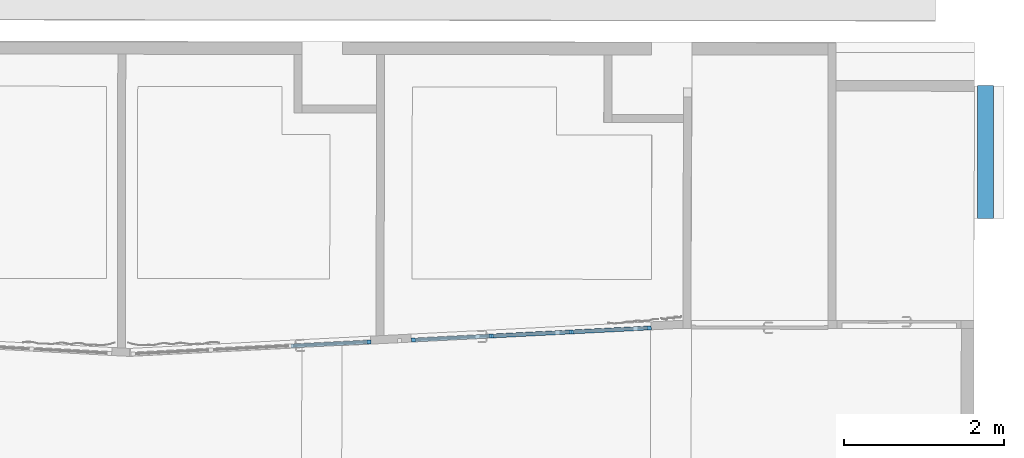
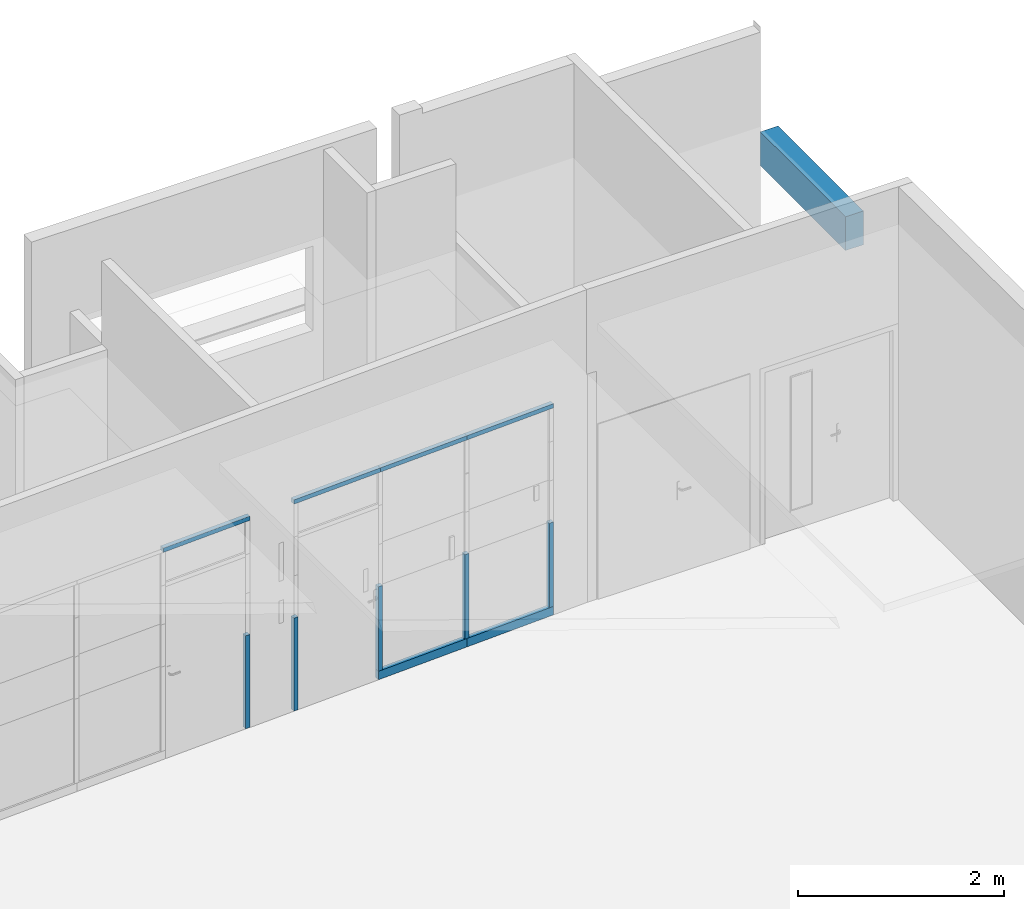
# One storey, part 2 of 43: 11 members, 1 beam, 2 elements without a shape of their own.
"""IFC2X3 building model written with IfcOpenShell, lengths in metres."""

from ifc_helpers import new_model, entity, si_unit, converted_unit, derived_unit, direction, frame, frame_2d, origin, origin_2d_with_axis, place, context, subcontext, project, spatial, rectangle, extrude, source, transform, mapped, material, type_object, type_shapes, element, aggregate, save


model = new_model("IFC2X3")

# Units and contexts
model_context = context("Model", 3, precision=1e-05, world=origin(), true_north=direction((6.123233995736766e-17, 1.0)))
body_context = subcontext(model_context, "Body", "Model", "MODEL_VIEW")
ifc_project = project(units=[si_unit("LENGTHUNIT", "METRE"), si_unit("AREAUNIT", "SQUARE_METRE"), converted_unit("PLANEANGLEUNIT", "DEGREE", entity("IfcPlaneAngleMeasure", 0.017453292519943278), si_unit("PLANEANGLEUNIT", "RADIAN"), dimensions=[0, 0, 0, 0, 0, 0, 0]), derived_unit("THERMALTRANSMITTANCEUNIT", [(si_unit("MASSUNIT", "GRAM", prefix="KILO"), 1), (si_unit("THERMODYNAMICTEMPERATUREUNIT", "KELVIN"), -1), (si_unit("TIMEUNIT", "SECOND"), -3)])], contexts=[model_context])

# Site, building, storey
site_placement = place(None, frame((1253.6752467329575, 2072.143113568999, 91.49999999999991), z_axis=(0.0, 0.0, 1.0), x_axis=(0.7237211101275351, 0.6900925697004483, 0.0)))
site = spatial("IfcSite", under=ifc_project, at=site_placement, Name="Surface", CompositionType="ELEMENT")
building_placement = place(site_placement, origin())
building = spatial("IfcBuilding", under=site, at=building_placement, CompositionType="ELEMENT")
storey_placement = place(building_placement, frame((0.0, 0.0, -4.629999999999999)))
storey = spatial("IfcBuildingStorey", under=building, at=storey_placement, Name="rez de rue -1.10m", CompositionType="ELEMENT", Elevation=-4.629999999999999)

# Beam
ifc_material_1 = material(Name="Béton - Béton coulé sur place")
beam_type = type_object("IfcBeamType", Name="ART-Béton - Poutre rectangulaire:Po 20x40 ht", PredefinedType="BEAM")
beam_placement = place(storey_placement, frame((189.51419344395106, 4.0133765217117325, 0.34277777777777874), z_axis=(0.0, 0.0, 1.0), x_axis=(-0.6911544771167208, -0.7227070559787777, 0.0)))
element("IfcBeam", 1, at=beam_placement, inside=storey, type_object=beam_type, material=ifc_material_1, Name="ART-Béton - Poutre rectangulaire:Po 20x40 ht", ObjectType="ART-Béton - Poutre rectangulaire:Po 20x40 ht", context=body_context, shape_type="SweptSolid", body=[
    extrude(rectangle(XDim=0.4, YDim=0.20000000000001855, at=frame_2d((0.0, -1.8735013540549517e-16), x_axis=(1.0, 0.0))), frame((0.0, 2.1000000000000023, 1.8999999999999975), z_axis=(1.0, 0.0, 0.0), x_axis=(0.0, 0.0, -1.0)), (0.0, 0.0, 1.0), 1.6591115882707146),
])

# Curtain wall, members
curtain_wall_type = type_object("IfcCurtainWallType", Name="Mur-rideau:Menuiserie Int", PredefinedType="NOTDEFINED")
curtain_wall_1_placement = place(storey_placement, frame((0.0, 0.0, 4.629999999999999)))
curtain_wall_1 = element("IfcCurtainWall", 2, at=curtain_wall_1_placement, inside=storey, type_object=curtain_wall_type, Name="Mur-rideau:Menuiserie Int", ObjectType="Mur-rideau:Menuiserie Int")
ifc_material_2 = material(Name="OMD_Bois Men Int")
member_type_1 = type_object("IfcMemberType", Name="Meneau rectangulaire:50x50 Int", PredefinedType="MULLION", material=ifc_material_2)
shared_shape_1 = source(origin(), body_context, "Body", "SweptSolid", [
    extrude(rectangle(XDim=0.05, YDim=0.049999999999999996, at=origin_2d_with_axis()), frame((-0.025, 0.0, -1.0), z_axis=(0.0, 0.0, 1.0), x_axis=(-1.0, 0.0, 0.0)), (0.0, 0.0, 1.0), 0.9999999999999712),
])
type_shapes(member_type_1, [shared_shape_1])
member_1_placement = place(curtain_wall_1_placement, frame((183.26996230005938, 5.543869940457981, -2.1299999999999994), z_axis=(0.7578888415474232, -0.6523837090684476, 0.0), x_axis=(0.0, 0.0, 1.0)))
member_1 = element("IfcMember", 3, at=member_1_placement, type_object=member_type_1, material=ifc_material_2, Name="Meneau rectangulaire:50x50 Int", ObjectType="Meneau rectangulaire:50x50 Int", context=body_context, shape_type="MappedRepresentation", body=[
    mapped(shared_shape_1, transform((0.0, 0.0, 0.0), scale=1.0)),
])
member_type_2 = type_object("IfcMemberType", Name="Meneau rectangulaire:50x50 Int", PredefinedType="MULLION", material=ifc_material_2)
shared_shape_2 = source(origin(), body_context, "Body", "SweptSolid", [
    extrude(rectangle(XDim=0.05, YDim=0.05, at=origin_2d_with_axis()), frame((-0.025, 0.0, -1.0999999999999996), z_axis=(0.0, 0.0, 1.0), x_axis=(-1.0, 0.0, 0.0)), (0.0, 0.0, 1.0), 1.0999999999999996),
])
type_shapes(member_type_2, [shared_shape_2])
member_2_placement = place(curtain_wall_1_placement, frame((183.2699623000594, 5.543869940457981, -4.629999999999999), z_axis=(0.0, 0.0, -1.0), x_axis=(0.7578888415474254, -0.6523837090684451, 0.0)))
member_2 = element("IfcMember", 4, at=member_2_placement, type_object=member_type_2, material=ifc_material_2, Name="Meneau rectangulaire:50x50 Int", ObjectType="Meneau rectangulaire:50x50 Int", context=body_context, shape_type="MappedRepresentation", body=[
    mapped(shared_shape_2, transform((0.0, 0.0, 0.0), scale=1.0)),
])
aggregate(curtain_wall_1, [member_1, member_2])

curtain_wall_2_placement = place(storey_placement, frame((0.0, 0.0, 4.629999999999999)))
curtain_wall_2 = element("IfcCurtainWall", 5, at=curtain_wall_2_placement, inside=storey, type_object=curtain_wall_type, Name="Mur-rideau:Menuiserie Int", ObjectType="Mur-rideau:Menuiserie Int")
member_type_3 = type_object("IfcMemberType", Name="Meneau rectangulaire:50x50 Int", PredefinedType="MULLION", material=ifc_material_2)
shared_shape_3 = source(origin(), body_context, "Body", "SweptSolid", [
    extrude(rectangle(XDim=0.05, YDim=0.05, at=frame_2d((0.0, 1.734723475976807e-18), x_axis=(1.0, 0.0))), frame((-0.025, 0.0, -1.0), z_axis=(0.0, 0.0, 1.0), x_axis=(-1.0, 0.0, 0.0)), (0.0, 0.0, 1.0), 1.000000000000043),
])
type_shapes(member_type_3, [shared_shape_3])
member_3_placement = place(curtain_wall_2_placement, frame((185.92429787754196, 3.2543116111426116, -2.1299999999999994), z_axis=(0.7578888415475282, -0.6523837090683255, 0.0), x_axis=(0.0, 0.0, 1.0)))
member_3 = element("IfcMember", 6, at=member_3_placement, type_object=member_type_3, material=ifc_material_2, Name="Meneau rectangulaire:50x50 Int", ObjectType="Meneau rectangulaire:50x50 Int", context=body_context, shape_type="MappedRepresentation", body=[
    mapped(shared_shape_3, transform((0.0, 0.0, 0.0), scale=1.0)),
])
member_type_4 = type_object("IfcMemberType", Name="Meneau rectangulaire:50x50 Int", PredefinedType="MULLION", material=ifc_material_2)
shared_shape_4 = source(origin(), body_context, "Body", "SweptSolid", [
    extrude(rectangle(XDim=0.05, YDim=0.05, at=origin_2d_with_axis()), frame((-0.025, 0.0, -1.0), z_axis=(0.0, 0.0, 1.0), x_axis=(-1.0, 0.0, 0.0)), (0.0, 0.0, 1.0), 1.0),
])
type_shapes(member_type_4, [shared_shape_4])
member_4_placement = place(curtain_wall_2_placement, frame((185.92429787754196, 3.2543116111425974, -4.529999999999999), z_axis=(0.0, 0.0, -1.0), x_axis=(0.7578888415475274, -0.6523837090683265, 0.0)))
member_4 = element("IfcMember", 7, at=member_4_placement, type_object=member_type_4, material=ifc_material_2, Name="Meneau rectangulaire:50x50 Int", ObjectType="Meneau rectangulaire:50x50 Int", context=body_context, shape_type="MappedRepresentation", body=[
    mapped(shared_shape_4, transform((0.0, 0.0, 0.0), scale=1.0)),
])
member_type_5 = type_object("IfcMemberType", Name="Meneau rectangulaire:50x50 Int", PredefinedType="MULLION", material=ifc_material_2)
shared_shape_5 = source(origin(), body_context, "Body", "SweptSolid", [
    extrude(rectangle(XDim=0.05, YDim=0.05000000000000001, at=origin_2d_with_axis()), frame((-0.025, 0.0, -1.0), z_axis=(0.0, 0.0, 1.0), x_axis=(-1.0, 0.0, 0.0)), (0.0, 0.0, 1.0), 0.9999999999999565),
])
type_shapes(member_type_5, [shared_shape_5])
member_5_placement = place(curtain_wall_2_placement, frame((185.16640903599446, 3.9066953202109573, -2.1299999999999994), z_axis=(0.7578888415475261, -0.6523837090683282, 0.0), x_axis=(0.0, 0.0, 1.0)))
member_5 = element("IfcMember", 8, at=member_5_placement, type_object=member_type_5, material=ifc_material_2, Name="Meneau rectangulaire:50x50 Int", ObjectType="Meneau rectangulaire:50x50 Int", context=body_context, shape_type="MappedRepresentation", body=[
    mapped(shared_shape_5, transform((0.0, 0.0, 0.0), scale=1.0)),
])
member_type_6 = type_object("IfcMemberType", Name="Meneau rectangulaire:ht 100x50", PredefinedType="MULLION", material=ifc_material_2)
shared_shape_6 = source(origin(), body_context, "Body", "SweptSolid", [
    extrude(rectangle(XDim=0.09999999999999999, YDim=0.05, at=origin_2d_with_axis()), frame((-0.049999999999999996, 0.0, -1.0), z_axis=(0.0, 0.0, 1.0), x_axis=(-1.0, 0.0, 0.0)), (0.0, 0.0, 1.0), 1.000000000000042),
])
type_shapes(member_type_6, [shared_shape_6])
member_6_placement = place(curtain_wall_2_placement, frame((185.16640903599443, 3.9066953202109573, -4.629999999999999), z_axis=(-0.7578888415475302, 0.6523837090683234, 0.0), x_axis=(0.0, 0.0, -1.0)))
member_6 = element("IfcMember", 9, at=member_6_placement, type_object=member_type_6, material=ifc_material_2, Name="Meneau rectangulaire:ht 100x50", ObjectType="Meneau rectangulaire:ht 100x50", context=body_context, shape_type="MappedRepresentation", body=[
    mapped(shared_shape_6, transform((0.0, 0.0, 0.0), scale=1.0)),
])
member_type_7 = type_object("IfcMemberType", Name="Meneau rectangulaire:50x50 Int", PredefinedType="MULLION", material=ifc_material_2)
shared_shape_7 = source(origin(), body_context, "Body", "SweptSolid", [
    extrude(rectangle(XDim=0.05, YDim=0.05, at=origin_2d_with_axis()), frame((-0.025, 0.0, -1.0), z_axis=(0.0, 0.0, 1.0), x_axis=(-1.0, 0.0, 0.0)), (0.0, 0.0, 1.0), 0.9999999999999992),
])
type_shapes(member_type_7, [shared_shape_7])
member_7_placement = place(curtain_wall_2_placement, frame((184.40852019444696, 4.559079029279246, -2.1299999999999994), z_axis=(0.7578888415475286, -0.6523837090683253, 0.0), x_axis=(0.0, 0.0, 1.0)))
member_7 = element("IfcMember", 10, at=member_7_placement, type_object=member_type_7, material=ifc_material_2, Name="Meneau rectangulaire:50x50 Int", ObjectType="Meneau rectangulaire:50x50 Int", context=body_context, shape_type="MappedRepresentation", body=[
    mapped(shared_shape_7, transform((0.0, 0.0, 0.0), scale=1.0)),
])
member_type_8 = type_object("IfcMemberType", Name="Meneau rectangulaire:ht 100x50", PredefinedType="MULLION", material=ifc_material_2)
shared_shape_8 = source(origin(), body_context, "Body", "SweptSolid", [
    extrude(rectangle(XDim=0.09999999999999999, YDim=0.05, at=origin_2d_with_axis()), frame((-0.049999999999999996, 0.0, -1.024999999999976), z_axis=(0.0, 0.0, 1.0), x_axis=(-1.0, 0.0, 0.0)), (0.0, 0.0, 1.0), 1.0249999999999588),
])
type_shapes(member_type_8, [shared_shape_8])
member_8_placement = place(curtain_wall_2_placement, frame((184.3895729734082, 4.57538862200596, -4.629999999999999), z_axis=(-0.7578888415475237, 0.6523837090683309, 0.0), x_axis=(0.0, 0.0, -1.0)))
member_8 = element("IfcMember", 11, at=member_8_placement, type_object=member_type_8, material=ifc_material_2, Name="Meneau rectangulaire:ht 100x50", ObjectType="Meneau rectangulaire:ht 100x50", context=body_context, shape_type="MappedRepresentation", body=[
    mapped(shared_shape_8, transform((0.0, 0.0, 0.0), scale=1.0)),
])
member_type_9 = type_object("IfcMemberType", Name="Meneau rectangulaire:50x50 Int", PredefinedType="MULLION", material=ifc_material_2)
shared_shape_9 = source(origin(), body_context, "Body", "SweptSolid", [
    extrude(rectangle(XDim=0.05, YDim=0.05, at=origin_2d_with_axis()), frame((-0.025, 0.0, -1.1), z_axis=(0.0, 0.0, 1.0), x_axis=(-1.0, 0.0, 0.0)), (0.0, 0.0, 1.0), 1.1),
])
type_shapes(member_type_9, [shared_shape_9])
member_9_placement = place(curtain_wall_2_placement, frame((183.6506313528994, 5.211462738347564, -3.529999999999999), z_axis=(0.0, 0.0, 1.0), x_axis=(-0.7578888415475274, 0.6523837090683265, 0.0)))
member_9 = element("IfcMember", 12, at=member_9_placement, type_object=member_type_9, material=ifc_material_2, Name="Meneau rectangulaire:50x50 Int", ObjectType="Meneau rectangulaire:50x50 Int", context=body_context, shape_type="MappedRepresentation", body=[
    mapped(shared_shape_9, transform((0.0, 0.0, 0.0), scale=1.0)),
])
member_type_10 = type_object("IfcMemberType", Name="Meneau rectangulaire:50x50 Int", PredefinedType="MULLION", material=ifc_material_2)
shared_shape_10 = source(origin(), body_context, "Body", "SweptSolid", [
    extrude(rectangle(XDim=0.05, YDim=0.05, at=frame_2d((0.0, 1.734723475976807e-18), x_axis=(1.0, 0.0))), frame((0.0, 0.0, -1.0), z_axis=(0.0, 0.0, 1.0), x_axis=(-1.0, 0.0, 0.0)), (0.0, 0.0, 1.0), 1.0),
])
type_shapes(member_type_10, [shared_shape_10])
member_10_placement = place(curtain_wall_2_placement, frame((185.16640903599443, 3.906695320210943, -4.529999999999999), z_axis=(0.0, 0.0, -1.0), x_axis=(0.7578888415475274, -0.6523837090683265, 0.0)))
member_10 = element("IfcMember", 13, at=member_10_placement, type_object=member_type_10, material=ifc_material_2, Name="Meneau rectangulaire:50x50 Int", ObjectType="Meneau rectangulaire:50x50 Int", context=body_context, shape_type="MappedRepresentation", body=[
    mapped(shared_shape_10, transform((0.0, 0.0, 0.0), scale=1.0)),
])
member_11_placement = place(curtain_wall_2_placement, frame((184.4085201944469, 4.5590790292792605, -4.529999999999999), z_axis=(0.0, 0.0, -1.0), x_axis=(0.7578888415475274, -0.6523837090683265, 0.0)))
member_11 = element("IfcMember", 14, at=member_11_placement, type_object=member_type_10, material=ifc_material_2, Name="Meneau rectangulaire:50x50 Int", ObjectType="Meneau rectangulaire:50x50 Int", context=body_context, shape_type="MappedRepresentation", body=[
    mapped(shared_shape_10, transform((0.0, 0.0, 0.0), scale=1.0)),
])
aggregate(curtain_wall_2, [member_3, member_4, member_5, member_6, member_7, member_8, member_9, member_10, member_11])

save(model, "model.ifc")
